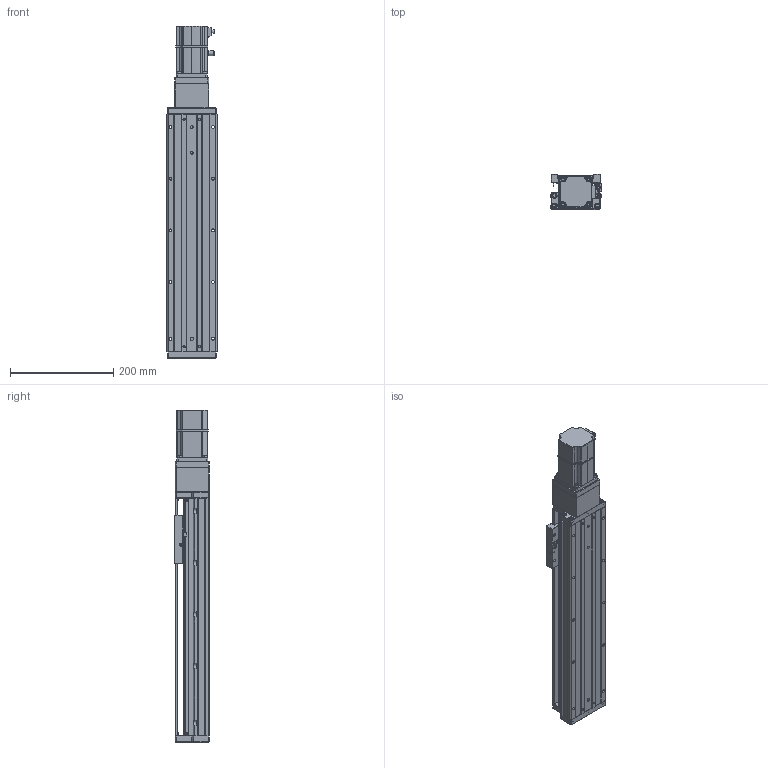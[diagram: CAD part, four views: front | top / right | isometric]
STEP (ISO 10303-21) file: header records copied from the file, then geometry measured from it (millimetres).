
FILE_DESCRIPTION (( 'STEP AP203' ), '1' );
FILE_NAME ('KTHA100-300-BC-M20-C4L.step', '2022-04-26T01:43:58', ( '微软用户' ), ( '微软中国' ), 'SwSTEP 2.0', 'SolidWorks 2020', '' );
FILE_SCHEMA (( 'CONFIG_CONTROL_DESIGN' ));
Length unit declared in the file: millimetre
Products named in the file (18): EE_SX911P_R; GBT 70.3-M3℅6; CTHA60-017; _X2_4E0983F1_X0_200W_1; KTHA100-001_460; CTHA60-021; CTHA86-013; KTHA100-002; GBT77-2000 M3×3; CTHA86-027; KTHA100-004; GBT 70.1-M3℅6; CTHA86-006-1_CTHA86-006-2; KTHA100-005; GBT70.1 M5℅16; KTHA100-300-BC-M20-C4L; GB¨uT 70.2-M3¡Á5_M3¡Á6; CTHA60-016
Assembly tree (56 placements, depth 2):
  KTHA100-300-BC-M20-C4L
    KTHA100-001_460
    KTHA100-002
    KTHA100-004
    KTHA100-005
    GB¨uT 70.2-M3¡Á5_M3¡Á6  x6
    EE_SX911P_R  x3
    CTHA60-017  x3
    CTHA60-021  x2
    GBT77-2000 M3×3  x6
    GBT 70.1-M3℅6  x6
    GBT70.1 M5℅16  x14
    CTHA60-016  x2
    GBT 70.3-M3℅6  x6
    _X2_4E0983F1_X0_200W_1
    CTHA86-013
    CTHA86-027
    CTHA86-006-1_CTHA86-006-2
Bounding box: 98.82 x 68 x 642.5 mm (x, y, z)
Volume: 2457627.9 mm3; surface area: 422552.9 mm2
Topology: 59 solids, 59 shells, 2347 faces, 5576 edges, 3436 vertices
Faces by surface type: plane 1191, cylinder 643, cone 324, torus 104, bspline 69, sphere 16
Entity records: 39660 total; most frequent: CARTESIAN_POINT 7639, DIRECTION 6219, ORIENTED_EDGE 5920, EDGE_CURVE 2960, AXIS2_PLACEMENT_3D 2188, VERTEX_POINT 1854, VECTOR 1843, LINE 1843
